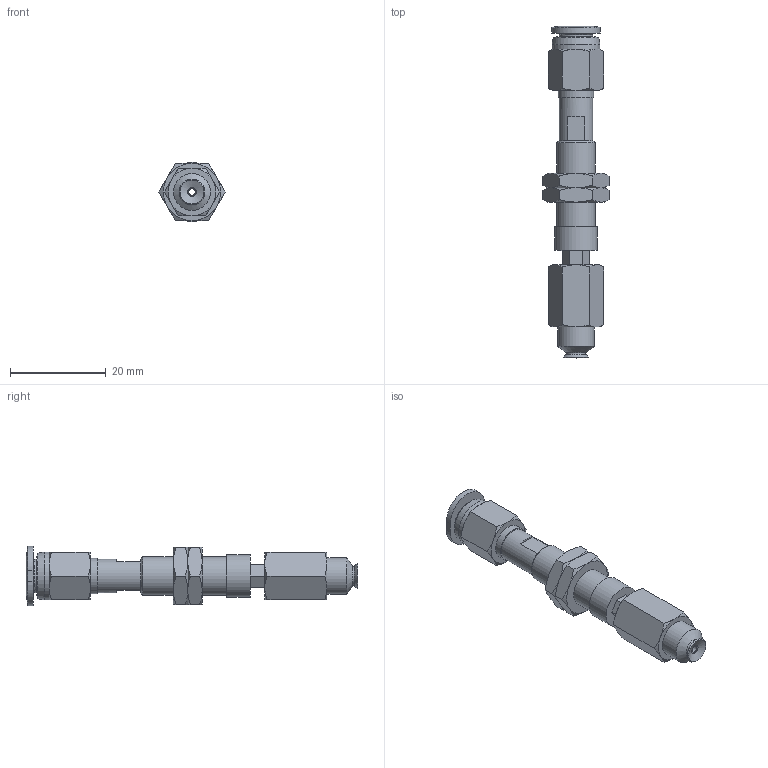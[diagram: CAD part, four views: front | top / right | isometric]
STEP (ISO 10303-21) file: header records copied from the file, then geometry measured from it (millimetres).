
FILE_DESCRIPTION(('STEP AP203'),'1');
FILE_NAME('-O.stp','2025-08-27T02:47:46',(' '),(' '),'Spatial InterOp 3D',' ',' ');
FILE_SCHEMA(('CONFIG_CONTROL_DESIGN'));
Length unit declared in the file: millimetre
Products named in the file (7): BNABPFTH-5A-3-※-O; ADAPTER; NAPATH-10A-3--M; Nut-5A-3-h; NAPFTH-5A-3-FBODY; BPFG-5A-※; PC-C_06-M5
Assembly tree (7 placements, depth 2):
  BNABPFTH-5A-3-※-O
    ADAPTER
    NAPATH-10A-3--M
    Nut-5A-3-h  x2
    NAPFTH-5A-3-FBODY
    BPFG-5A-※
    PC-C_06-M5
Bounding box: 13.86 x 69.48 x 12.4 mm (x, y, z)
Volume: 3254.1 mm3; surface area: 4897.2 mm2
Topology: 6 solids, 9 shells, 173 faces, 366 edges, 222 vertices
Faces by surface type: plane 69, cone 62, cylinder 23, torus 11, bspline 5, revolution 3
Full cylindrical faces by diameter (mm): 1.4 x1, 2 x2, 4 x4, 4.134 x1, 5 x1, 6 x2, 7 x2, 7.188 x2, 7.4 x1, 7.7 x1, 8 x1, 8.2 x1, 9 x1, 10 x1
Entity records: 4495 total; most frequent: CARTESIAN_POINT 1268, DIRECTION 593, ORIENTED_EDGE 520, EDGE_CURVE 262, AXIS2_PLACEMENT_3D 257, EDGE_LOOP 220, VERTEX_POINT 184, FACE_OUTER_BOUND 122
